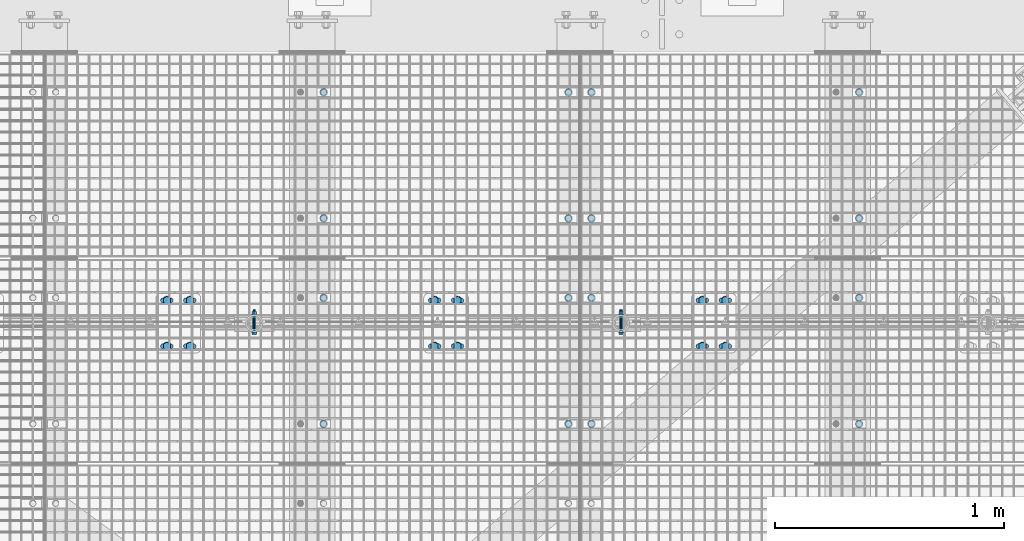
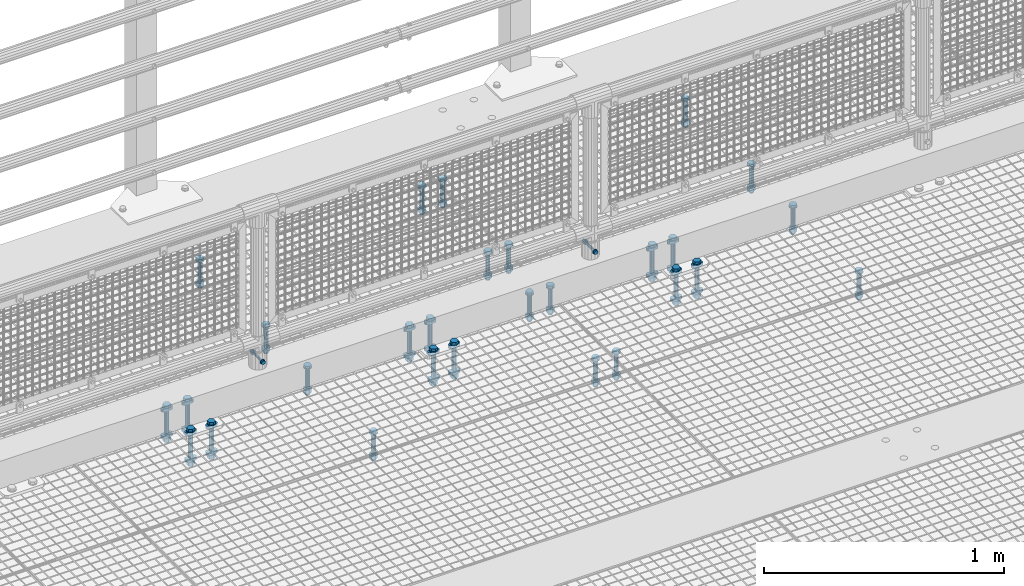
# One storey, part 38 of 1530: 13 mechanical fasteners.
"""IFC2X3 building model written with IfcOpenShell, lengths in millimetres."""

from ifc_helpers import new_model, si_unit, frame, origin_with_axes, place, context, subcontext, project, spatial, faceted_brep, source, transform, mapped, material, type_object, element, save


model = new_model("IFC2X3")

# Units and contexts
model_context = context("Model", 3, precision=1e-05, world=origin_with_axes())
body_context = subcontext(model_context, "Body", "Model", "MODEL_VIEW")
ifc_project = project(units=[si_unit("LENGTHUNIT", "METRE", prefix="MILLI"), si_unit("AREAUNIT", "SQUARE_METRE"), si_unit("VOLUMEUNIT", "CUBIC_METRE"), si_unit("MASSUNIT", "GRAM", prefix="KILO"), si_unit("TIMEUNIT", "SECOND"), si_unit("PLANEANGLEUNIT", "RADIAN"), si_unit("SOLIDANGLEUNIT", "STERADIAN"), si_unit("THERMODYNAMICTEMPERATUREUNIT", "DEGREE_CELSIUS"), si_unit("LUMINOUSINTENSITYUNIT", "LUMEN")], contexts=[model_context])

# Site, building, storey
site_placement = place(None, origin_with_axes())
site = spatial("IfcSite", under=ifc_project, at=site_placement, Name="Brattvåg", CompositionType="ELEMENT")
building_placement = place(site_placement, origin_with_axes())
building = spatial("IfcBuilding", under=site, at=building_placement, Name="Undefined", CompositionType="ELEMENT")
storey_placement = place(building_placement, origin_with_axes())
storey = spatial("IfcBuildingStorey", under=building, at=storey_placement, Name="Undefined", CompositionType="ELEMENT", Elevation=0.0)

# Mechanical fasteners
ifc_material = material(Name="8")
mechanical_fastener_type = type_object("IfcMechanicalFastenerType", Name="Bolt assembly")
shared_shape_1 = source(origin_with_axes(), body_context, "Body", "Brep", [
    faceted_brep([(17.3205080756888, -10.5, 0.0), (8.66025403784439, -10.5, 15.0), (-8.66025403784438, -10.5, 15.0), (-17.3205080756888, -10.5, 2.12115047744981e-15), (-8.66025403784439, -10.5, -15.0), (8.66025403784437, -10.5, -15.0), (8.66025403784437, 2.0, -15.0), (-8.66025403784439, 2.0, -15.0), (-17.3205080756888, 2.0, 2.12115047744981e-15), (-8.66025403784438, 2.0, 15.0), (8.66025403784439, 2.0, 15.0), (17.3205080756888, 2.0, 0.0), (10.0, 2.0, 0.0), (8.66025403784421, 2.0, 5.0000000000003), (4.9999999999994, 2.0, 8.66025403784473), (-1.03633598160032e-12, 2.0, 10.0), (-5.00000000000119, 2.0, 8.6602540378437), (-8.66025403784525, 2.0, 4.99999999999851), (-10.0, 2.0, -2.07267196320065e-12), (-8.66025403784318, 2.0, -5.00000000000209), (-4.99999999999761, 2.0, -8.66025403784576), (3.09790571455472e-12, 2.0, -10.0), (5.00000000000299, 2.0, -8.66025403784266), (8.66025403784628, 2.0, -4.99999999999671), (8.66025403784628, 142.0, -4.99999999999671), (5.00000000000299, 142.0, -8.66025403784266), (3.09790571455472e-12, 142.0, -10.0), (-4.99999999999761, 142.0, -8.66025403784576), (-8.66025403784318, 142.0, -5.00000000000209), (-10.0, 142.0, -2.07267196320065e-12), (-8.66025403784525, 142.0, 4.99999999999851), (-5.00000000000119, 142.0, 8.6602540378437), (-1.03633598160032e-12, 142.0, 10.0), (4.9999999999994, 142.0, 8.66025403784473), (8.66025403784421, 142.0, 5.0000000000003), (10.0, 142.0, 0.0), (18.5, 2.0, 0.0), (16.0214699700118, 2.0, 9.25000000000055), (9.2499999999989, 2.0, 16.0214699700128), (-1.9172215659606e-12, 2.0, 18.5), (-9.25000000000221, 2.0, 16.0214699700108), (-16.0214699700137, 2.0, 9.24999999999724), (-18.5, 2.0, -3.83444313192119e-12), (-16.0214699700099, 2.0, -9.25000000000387), (-9.24999999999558, 2.0, -16.0214699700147), (5.73112557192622e-12, 2.0, -18.5), (9.25000000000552, 2.0, -16.0214699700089), (16.0214699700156, 2.0, -9.24999999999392), (16.0214699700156, 5.0, -9.24999999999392), (9.25000000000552, 5.0, -16.0214699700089), (5.73112557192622e-12, 5.0, -18.5), (-9.24999999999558, 5.0, -16.0214699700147), (-16.0214699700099, 5.0, -9.25000000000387), (-18.5, 5.0, -3.83444313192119e-12), (-16.0214699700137, 5.0, 9.24999999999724), (-9.25000000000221, 5.0, 16.0214699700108), (-1.9172215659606e-12, 5.0, 18.5), (9.2499999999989, 5.0, 16.0214699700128), (16.0214699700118, 5.0, 9.25000000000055), (18.5, 5.0, 0.0), (18.5, 109.998931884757, 0.0), (16.0214699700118, 109.998931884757, 9.25000000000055), (9.2499999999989, 109.998931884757, 16.0214699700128), (-1.9172215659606e-12, 109.998931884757, 18.5), (-9.25000000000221, 109.998931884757, 16.0214699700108), (-16.0214699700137, 109.998931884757, 9.24999999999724), (-18.5, 109.998931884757, -3.83444313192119e-12), (-16.0214699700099, 109.998931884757, -9.25000000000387), (-9.24999999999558, 109.998931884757, -16.0214699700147), (5.73112557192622e-12, 109.998931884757, -18.5), (9.25000000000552, 109.998931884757, -16.0214699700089), (16.0214699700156, 109.998931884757, -9.24999999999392), (16.0214699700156, 112.998931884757, -9.24999999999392), (9.25000000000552, 112.998931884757, -16.0214699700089), (5.73112557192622e-12, 112.998931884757, -18.5), (-9.24999999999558, 112.998931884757, -16.0214699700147), (-16.0214699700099, 112.998931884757, -9.25000000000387), (-18.5, 112.998931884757, -3.83444313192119e-12), (-16.0214699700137, 112.998931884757, 9.24999999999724), (-9.25000000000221, 112.998931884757, 16.0214699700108), (-1.9172215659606e-12, 112.998931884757, 18.5), (9.2499999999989, 112.998931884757, 16.0214699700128), (16.0214699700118, 112.998931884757, 9.25000000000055), (18.5, 112.998931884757, 0.0), (17.3205080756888, 112.998931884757, 0.0), (8.66025403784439, 112.998931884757, 15.0), (-8.66025403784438, 112.998931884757, 15.0), (-17.3205080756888, 112.998931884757, 2.12115047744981e-15), (-8.66025403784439, 112.998931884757, -15.0), (8.66025403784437, 112.998931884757, -15.0), (8.66025403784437, 130.998931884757, -15.0), (-8.66025403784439, 130.998931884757, -15.0), (-17.3205080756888, 130.998931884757, 2.12115047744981e-15), (-8.66025403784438, 130.998931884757, 15.0), (8.66025403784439, 130.998931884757, 15.0), (17.3205080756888, 130.998931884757, 0.0)], [[[0, 1, 2, 3, 4, 5]], [[6, 7, 8, 9, 10, 11]], [[0, 11, 10, 1]], [[1, 10, 9, 2]], [[2, 9, 8, 3]], [[3, 8, 7, 4]], [[4, 7, 6, 5]], [[5, 6, 11, 0]], [[12, 13, 14, 15, 16, 17, 18, 19, 20, 21, 22, 23]], [[24, 25, 26, 27, 28, 29, 30, 31, 32, 33, 34, 35]], [[12, 35, 34, 13]], [[13, 34, 33, 14]], [[14, 33, 32, 15]], [[15, 32, 31, 16]], [[16, 31, 30, 17]], [[17, 30, 29, 18]], [[18, 29, 28, 19]], [[19, 28, 27, 20]], [[20, 27, 26, 21]], [[21, 26, 25, 22]], [[22, 25, 24, 23]], [[23, 24, 35, 12]], [[36, 37, 38, 39, 40, 41, 42, 43, 44, 45, 46, 47]], [[48, 49, 50, 51, 52, 53, 54, 55, 56, 57, 58, 59]], [[36, 59, 58, 37]], [[37, 58, 57, 38]], [[38, 57, 56, 39]], [[39, 56, 55, 40]], [[40, 55, 54, 41]], [[41, 54, 53, 42]], [[42, 53, 52, 43]], [[43, 52, 51, 44]], [[44, 51, 50, 45]], [[45, 50, 49, 46]], [[46, 49, 48, 47]], [[47, 48, 59, 36]], [[60, 61, 62, 63, 64, 65, 66, 67, 68, 69, 70, 71]], [[72, 73, 74, 75, 76, 77, 78, 79, 80, 81, 82, 83]], [[60, 83, 82, 61]], [[61, 82, 81, 62]], [[62, 81, 80, 63]], [[63, 80, 79, 64]], [[64, 79, 78, 65]], [[65, 78, 77, 66]], [[66, 77, 76, 67]], [[67, 76, 75, 68]], [[68, 75, 74, 69]], [[69, 74, 73, 70]], [[70, 73, 72, 71]], [[71, 72, 83, 60]], [[84, 85, 86, 87, 88, 89]], [[90, 91, 92, 93, 94, 95]], [[84, 95, 94, 85]], [[85, 94, 93, 86]], [[86, 93, 92, 87]], [[87, 92, 91, 88]], [[88, 91, 90, 89]], [[89, 90, 95, 84]]]),
])
for number, where, z_axis, x_axis, name in (
    (1, (5292.00477935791, 8121.91931152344, -25.0), (-1.0, 1.99999855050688e-09, 0.0), (0.0, 1.0, 0.0), "Bolt assembly"),
    (2, (5292.00477935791, 7224.91931152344, -25.0), (-1.0, 1.99999855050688e-09, 0.0), (0.0, 1.0, 0.0), "Bolt assembly"),
    (3, (6460.01192543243, 8121.99, -25.0), (-1.0, 1.99999855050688e-09, 0.0), (0.0, 1.0, 0.0), "Bolt assembly"),
    (4, (5192.01487731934, 8121.9204864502, -25.0), (-1.0, 1.99999855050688e-09, 0.0), (0.0, 1.0, 0.0), "Bolt assembly"),
    (5, (4124.01192543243, 8121.99, -25.0), (-1.0, 1.99999855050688e-09, 0.0), (0.0, 1.0, 0.0), "Bolt assembly"),
    (6, (6460.01192543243, 7224.99, -25.0), (-1.0, 1.99999855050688e-09, 0.0), (0.0, 1.0, 0.0), "Bolt assembly"),
    (7, (5192.01487731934, 7224.9204864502, -25.0), (-1.0, 1.99999855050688e-09, 0.0), (0.0, 1.0, 0.0), "Bolt assembly"),
    (8, (4124.01192543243, 7224.99, -25.0), (-1.0, 1.99999855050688e-09, 0.0), (0.0, 1.0, 0.0), "Bolt assembly"),
):
    element("IfcMechanicalFastener", number, at=place(storey_placement, frame(where, z_axis=z_axis, x_axis=x_axis)), inside=storey, type_object=mechanical_fastener_type, material=ifc_material, Name=name, NominalDiameter=20.0, NominalLength=140.0, context=body_context, shape_type="MappedRepresentation", body=[
        mapped(shared_shape_1, transform((0.0, 0.0, 0.0))),
        mapped(shared_shape_1, transform((549.999999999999, 0.0, 0.0))),
    ])
shared_shape_2 = source(origin_with_axes(), body_context, "Body", "Brep", [
    faceted_brep([(17.3205080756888, -15.5000000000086, 0.0), (8.66025403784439, -15.5000000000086, 15.0), (-8.66025403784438, -15.5000000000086, 15.0), (-17.3205080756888, -15.5000000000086, 2.12115047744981e-15), (-8.66025403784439, -15.5000000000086, -15.0), (8.66025403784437, -15.5000000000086, -15.0), (8.66025403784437, -3.00000000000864, -15.0), (-8.66025403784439, -3.00000000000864, -15.0), (-17.3205080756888, -3.00000000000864, 2.12115047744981e-15), (-8.66025403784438, -3.00000000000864, 15.0), (8.66025403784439, -3.00000000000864, 15.0), (17.3205080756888, -3.00000000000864, 0.0), (10.0, -3.00000000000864, 0.0), (8.66025403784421, -3.00000000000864, 5.0000000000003), (4.9999999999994, -3.00000000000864, 8.66025403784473), (-1.03633598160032e-12, -3.00000000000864, 10.0), (-5.00000000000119, -3.00000000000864, 8.6602540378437), (-8.66025403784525, -3.00000000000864, 4.99999999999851), (-10.0, -3.00000000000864, -2.07267196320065e-12), (-8.66025403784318, -3.00000000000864, -5.00000000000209), (-4.99999999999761, -3.00000000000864, -8.66025403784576), (3.09790571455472e-12, -3.00000000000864, -10.0), (5.00000000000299, -3.00000000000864, -8.66025403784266), (8.66025403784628, -3.00000000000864, -4.99999999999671), (8.66025403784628, 176.999999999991, -4.99999999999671), (5.00000000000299, 176.999999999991, -8.66025403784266), (3.09790571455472e-12, 176.999999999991, -10.0), (-4.99999999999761, 176.999999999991, -8.66025403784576), (-8.66025403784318, 176.999999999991, -5.00000000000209), (-10.0, 176.999999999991, -2.07267196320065e-12), (-8.66025403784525, 176.999999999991, 4.99999999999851), (-5.00000000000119, 176.999999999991, 8.6602540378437), (-1.03633598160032e-12, 176.999999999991, 10.0), (4.9999999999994, 176.999999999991, 8.66025403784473), (8.66025403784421, 176.999999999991, 5.0000000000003), (10.0, 176.999999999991, 0.0), (18.5, -3.00000000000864, 0.0), (16.0214699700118, -3.00000000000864, 9.25000000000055), (9.2499999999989, -3.00000000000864, 16.0214699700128), (-1.9172215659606e-12, -3.00000000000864, 18.5), (-9.25000000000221, -3.00000000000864, 16.0214699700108), (-16.0214699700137, -3.00000000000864, 9.24999999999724), (-18.5, -3.00000000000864, -3.83444313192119e-12), (-16.0214699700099, -3.00000000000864, -9.25000000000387), (-9.24999999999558, -3.00000000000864, -16.0214699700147), (5.73112557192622e-12, -3.00000000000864, -18.5), (9.25000000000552, -3.00000000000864, -16.0214699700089), (16.0214699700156, -3.00000000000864, -9.24999999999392), (16.0214699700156, -8.64019966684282e-12, -9.24999999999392), (9.25000000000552, -8.64019966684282e-12, -16.0214699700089), (5.73112557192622e-12, -8.64019966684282e-12, -18.5), (-9.24999999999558, -8.64019966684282e-12, -16.0214699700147), (-16.0214699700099, -8.64019966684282e-12, -9.25000000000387), (-18.5, -8.64019966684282e-12, -3.83444313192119e-12), (-16.0214699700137, -8.64019966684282e-12, 9.24999999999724), (-9.25000000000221, -8.64019966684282e-12, 16.0214699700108), (-1.9172215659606e-12, -8.64019966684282e-12, 18.5), (9.2499999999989, -8.64019966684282e-12, 16.0214699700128), (16.0214699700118, -8.64019966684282e-12, 9.25000000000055), (18.5, -8.64019966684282e-12, 0.0), (18.5, 149.999999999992, 0.0), (16.0214699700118, 149.999999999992, 9.25000000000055), (9.2499999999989, 149.999999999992, 16.0214699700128), (-1.9172215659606e-12, 149.999999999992, 18.5), (-9.25000000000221, 149.999999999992, 16.0214699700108), (-16.0214699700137, 149.999999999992, 9.24999999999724), (-18.5, 149.999999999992, -3.83444313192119e-12), (-16.0214699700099, 149.999999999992, -9.25000000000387), (-9.24999999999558, 149.999999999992, -16.0214699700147), (5.73112557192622e-12, 149.999999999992, -18.5), (9.25000000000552, 149.999999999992, -16.0214699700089), (16.0214699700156, 149.999999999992, -9.24999999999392), (16.0214699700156, 152.999999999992, -9.24999999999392), (9.25000000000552, 152.999999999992, -16.0214699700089), (5.73112557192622e-12, 152.999999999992, -18.5), (-9.24999999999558, 152.999999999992, -16.0214699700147), (-16.0214699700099, 152.999999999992, -9.25000000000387), (-18.5, 152.999999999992, -3.83444313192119e-12), (-16.0214699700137, 152.999999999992, 9.24999999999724), (-9.25000000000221, 152.999999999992, 16.0214699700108), (-1.9172215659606e-12, 152.999999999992, 18.5), (9.2499999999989, 152.999999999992, 16.0214699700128), (16.0214699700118, 152.999999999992, 9.25000000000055), (18.5, 152.999999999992, 0.0), (17.3205080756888, 152.999999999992, 0.0), (8.66025403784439, 152.999999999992, 15.0), (-8.66025403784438, 152.999999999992, 15.0), (-17.3205080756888, 152.999999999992, 2.12115047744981e-15), (-8.66025403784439, 152.999999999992, -15.0), (8.66025403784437, 152.999999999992, -15.0), (8.66025403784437, 170.999999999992, -15.0), (-8.66025403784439, 170.999999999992, -15.0), (-17.3205080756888, 170.999999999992, 2.12115047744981e-15), (-8.66025403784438, 170.999999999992, 15.0), (8.66025403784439, 170.999999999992, 15.0), (17.3205080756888, 170.999999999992, 0.0)], [[[0, 1, 2, 3, 4, 5]], [[6, 7, 8, 9, 10, 11]], [[0, 11, 10, 1]], [[1, 10, 9, 2]], [[2, 9, 8, 3]], [[3, 8, 7, 4]], [[4, 7, 6, 5]], [[5, 6, 11, 0]], [[12, 13, 14, 15, 16, 17, 18, 19, 20, 21, 22, 23]], [[24, 25, 26, 27, 28, 29, 30, 31, 32, 33, 34, 35]], [[12, 35, 34, 13]], [[13, 34, 33, 14]], [[14, 33, 32, 15]], [[15, 32, 31, 16]], [[16, 31, 30, 17]], [[17, 30, 29, 18]], [[18, 29, 28, 19]], [[19, 28, 27, 20]], [[20, 27, 26, 21]], [[21, 26, 25, 22]], [[22, 25, 24, 23]], [[23, 24, 35, 12]], [[36, 37, 38, 39, 40, 41, 42, 43, 44, 45, 46, 47]], [[48, 49, 50, 51, 52, 53, 54, 55, 56, 57, 58, 59]], [[36, 59, 58, 37]], [[37, 58, 57, 38]], [[38, 57, 56, 39]], [[39, 56, 55, 40]], [[40, 55, 54, 41]], [[41, 54, 53, 42]], [[42, 53, 52, 43]], [[43, 52, 51, 44]], [[44, 51, 50, 45]], [[45, 50, 49, 46]], [[46, 49, 48, 47]], [[47, 48, 59, 36]], [[60, 61, 62, 63, 64, 65, 66, 67, 68, 69, 70, 71]], [[72, 73, 74, 75, 76, 77, 78, 79, 80, 81, 82, 83]], [[60, 83, 82, 61]], [[61, 82, 81, 62]], [[62, 81, 80, 63]], [[63, 80, 79, 64]], [[64, 79, 78, 65]], [[65, 78, 77, 66]], [[66, 77, 76, 67]], [[67, 76, 75, 68]], [[68, 75, 74, 69]], [[69, 74, 73, 70]], [[70, 73, 72, 71]], [[71, 72, 83, 60]], [[84, 85, 86, 87, 88, 89]], [[90, 91, 92, 93, 94, 95]], [[84, 95, 94, 85]], [[85, 94, 93, 86]], [[86, 93, 92, 87]], [[87, 92, 91, 88]], [[88, 91, 90, 89]], [[89, 90, 95, 84]]]),
    faceted_brep([(11.0, 0.0999999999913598, 16.5), (10.162674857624, 0.0999999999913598, 20.7095177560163), (7.77817459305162, 0.0999999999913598, 24.2781745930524), (-1.13996957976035e-12, 0.0999999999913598, 27.5), (-5.50000000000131, 0.0999999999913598, 26.0262794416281), (-9.52627944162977, 0.0999999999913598, 21.9999999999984), (-11.0, 0.0999999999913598, 16.4999999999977), (-11.0, 0.0999999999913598, -16.5000000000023), (-9.5262794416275, 0.0999999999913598, -22.0000000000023), (-5.49999999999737, 0.0999999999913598, -26.0262794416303), (3.40769628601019e-12, 0.0999999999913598, -27.5), (5.50000000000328, 0.0999999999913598, -26.0262794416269), (9.52627944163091, 0.0999999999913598, -21.9999999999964), (11.0, 0.0999999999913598, -16.4999999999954), (11.0, 15.0999999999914, -16.4999999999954), (9.52627944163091, 15.0999999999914, -21.9999999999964), (5.50000000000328, 15.0999999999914, -26.0262794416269), (3.40769628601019e-12, 15.0999999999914, -27.5), (-5.49999999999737, 15.0999999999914, -26.0262794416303), (-9.5262794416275, 15.0999999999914, -22.0000000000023), (-11.0, 15.0999999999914, -16.5000000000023), (-11.0, 15.0999999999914, 16.4999999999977), (-9.52627944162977, 15.0999999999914, 21.9999999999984), (-5.50000000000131, 15.0999999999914, 26.0262794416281), (-1.13996957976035e-12, 15.0999999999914, 27.5), (4.2095177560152, 15.0999999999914, 26.6626748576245), (7.77817459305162, 15.0999999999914, 24.2781745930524), (10.162674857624, 15.0999999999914, 20.7095177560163), (11.0, 15.0999999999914, 16.5), (4.2095177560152, 0.0999999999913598, 26.6626748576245), (11.0, 134.899999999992, 16.5), (10.162674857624, 134.899999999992, 20.7095177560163), (7.77817459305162, 134.899999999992, 24.2781745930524), (-1.13996957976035e-12, 134.899999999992, 27.5), (-5.50000000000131, 134.899999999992, 26.0262794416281), (-9.52627944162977, 134.899999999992, 21.9999999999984), (-11.0, 134.899999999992, 16.4999999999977), (-11.0, 134.899999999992, -16.5000000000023), (-9.5262794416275, 134.899999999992, -22.0000000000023), (-5.49999999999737, 134.899999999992, -26.0262794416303), (3.40769628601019e-12, 134.899999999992, -27.5), (5.50000000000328, 134.899999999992, -26.0262794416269), (9.52627944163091, 134.899999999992, -21.9999999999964), (11.0, 134.899999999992, -16.4999999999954), (11.0, 149.999999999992, -16.4999999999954), (9.52627944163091, 149.999999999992, -21.9999999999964), (5.50000000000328, 149.999999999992, -26.0262794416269), (3.40769628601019e-12, 149.999999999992, -27.5), (-5.49999999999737, 149.999999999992, -26.0262794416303), (-9.5262794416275, 149.999999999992, -22.0000000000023), (-11.0, 149.999999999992, -16.5000000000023), (-11.0, 149.999999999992, 16.4999999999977), (-9.52627944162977, 149.999999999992, 21.9999999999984), (-5.50000000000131, 149.999999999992, 26.0262794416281), (-1.13996957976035e-12, 149.999999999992, 27.5), (4.2095177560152, 149.999999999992, 26.6626748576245), (7.77817459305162, 149.999999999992, 24.2781745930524), (10.162674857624, 149.999999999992, 20.7095177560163), (11.0, 149.999999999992, 16.5), (4.2095177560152, 134.899999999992, 26.6626748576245)], [[[0, 1, 2, 3, 4, 5, 6, 7, 8, 9, 10, 11, 12, 13]], [[14, 15, 16, 17, 18, 19, 20, 21, 22, 23, 24, 25, 26, 27, 28]], [[0, 28, 27, 1]], [[1, 27, 26, 2]], [[2, 26, 25, 29]], [[29, 25, 24, 3]], [[3, 24, 23, 4]], [[4, 23, 22, 5]], [[5, 22, 21, 6]], [[6, 21, 20, 7]], [[7, 20, 19, 8]], [[8, 19, 18, 9]], [[9, 18, 17, 10]], [[10, 17, 16, 11]], [[11, 16, 15, 12]], [[12, 15, 14, 13]], [[13, 14, 28, 0]], [[30, 31, 32, 33, 34, 35, 36, 37, 38, 39, 40, 41, 42, 43]], [[44, 45, 46, 47, 48, 49, 50, 51, 52, 53, 54, 55, 56, 57, 58]], [[30, 58, 57, 31]], [[31, 57, 56, 32]], [[32, 56, 55, 59]], [[59, 55, 54, 33]], [[33, 54, 53, 34]], [[34, 53, 52, 35]], [[35, 52, 51, 36]], [[36, 51, 50, 37]], [[37, 50, 49, 38]], [[38, 49, 48, 39]], [[39, 48, 47, 40]], [[40, 47, 46, 41]], [[41, 46, 45, 42]], [[42, 45, 44, 43]], [[43, 44, 58, 30]]]),
])
for number, where, z_axis, x_axis, name in (
    (9, (3489.99967956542, 7564.4994392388, 15.0000839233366), (-1.0, 1.99999855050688e-09, 0.0), (0.0, 1.0, 0.0), "Bolt assembly"),
    (10, (4657.99967956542, 7564.4994392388, 15.0000839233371), (-1.0, 1.99999855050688e-09, 0.0), (0.0, 1.0, 0.0), "Bolt assembly"),
    (11, (5825.99967956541, 7564.4994392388, 15.0000839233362), (-1.0, 1.99999855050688e-09, 0.0), (0.0, 1.0, 0.0), "Bolt assembly"),
):
    element("IfcMechanicalFastener", number, at=place(storey_placement, frame(where, z_axis=z_axis, x_axis=x_axis)), inside=storey, type_object=mechanical_fastener_type, material=ifc_material, Name=name, NominalDiameter=20.0, NominalLength=180.0, context=body_context, shape_type="MappedRepresentation", body=[
        mapped(shared_shape_2, transform((0.0, 0.0, -50.0))),
        mapped(shared_shape_2, transform((200.0, 0.0, -50.0))),
        mapped(shared_shape_2, transform((0.0, 0.0, 50.0))),
        mapped(shared_shape_2, transform((200.0, 0.0, 50.0))),
    ])
shared_shape_3 = source(origin_with_axes(), body_context, "Body", "Brep", [
    faceted_brep([(10.3923048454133, -9.99524588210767, 0.0), (5.19615242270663, -9.99524588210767, 9.0), (-5.19615242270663, -9.99524588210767, 9.0), (-10.3923048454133, -9.99524588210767, 1.27269028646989e-15), (-5.19615242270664, -9.99524588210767, -9.0), (5.19615242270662, -9.99524588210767, -9.0), (5.19615242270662, -2.49524588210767, -9.0), (-5.19615242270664, -2.49524588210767, -9.0), (-10.3923048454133, -2.49524588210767, 1.27269028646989e-15), (-5.19615242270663, -2.49524588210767, 9.0), (5.19615242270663, -2.49524588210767, 9.0), (10.3923048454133, -2.49524588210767, 0.0), (6.0, -2.49524588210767, 0.0), (5.19615242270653, -2.49524588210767, 3.00000000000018), (2.99999999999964, -2.49524588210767, 5.19615242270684), (-6.21801588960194e-13, -2.49524588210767, 6.0), (-3.00000000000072, -2.49524588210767, 5.19615242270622), (-5.19615242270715, -2.49524588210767, 2.9999999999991), (-6.0, -2.49524588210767, -1.24360317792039e-12), (-5.19615242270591, -2.49524588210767, -3.00000000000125), (-2.99999999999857, -2.49524588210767, -5.19615242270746), (1.85874342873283e-12, -2.49524588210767, -6.0), (3.00000000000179, -2.49524588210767, -5.1961524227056), (5.19615242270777, -2.49524588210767, -2.99999999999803), (5.19615242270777, 97.5047541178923, -2.99999999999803), (3.00000000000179, 97.5047541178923, -5.1961524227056), (1.85874342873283e-12, 97.5047541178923, -6.0), (-2.99999999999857, 97.5047541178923, -5.19615242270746), (-5.19615242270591, 97.5047541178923, -3.00000000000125), (-6.0, 97.5047541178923, -1.24360317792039e-12), (-5.19615242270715, 97.5047541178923, 2.9999999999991), (-3.00000000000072, 97.5047541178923, 5.19615242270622), (-6.21801588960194e-13, 97.5047541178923, 6.0), (2.99999999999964, 97.5047541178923, 5.19615242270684), (5.19615242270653, 97.5047541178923, 3.00000000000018), (6.0, 97.5047541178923, 0.0), (12.0, -2.49524588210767, 0.0), (10.3923048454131, -2.49524588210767, 6.00000000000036), (5.99999999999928, -2.49524588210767, 10.3923048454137), (-1.24360317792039e-12, -2.49524588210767, 12.0), (-6.00000000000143, -2.49524588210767, 10.3923048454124), (-10.3923048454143, -2.49524588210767, 5.99999999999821), (-12.0, -2.49524588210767, -2.48720635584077e-12), (-10.3923048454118, -2.49524588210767, -6.00000000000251), (-5.99999999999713, -2.49524588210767, -10.3923048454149), (3.71748685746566e-12, -2.49524588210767, -12.0), (6.00000000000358, -2.49524588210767, -10.3923048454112), (10.3923048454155, -2.49524588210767, -5.99999999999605), (10.3923048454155, 0.00475411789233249, -5.99999999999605), (6.00000000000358, 0.00475411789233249, -10.3923048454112), (3.71748685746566e-12, 0.00475411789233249, -12.0), (-5.99999999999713, 0.00475411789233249, -10.3923048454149), (-10.3923048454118, 0.00475411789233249, -6.00000000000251), (-12.0, 0.00475411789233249, -2.48720635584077e-12), (-10.3923048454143, 0.00475411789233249, 5.99999999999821), (-6.00000000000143, 0.00475411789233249, 10.3923048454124), (-1.24360317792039e-12, 0.00475411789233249, 12.0), (5.99999999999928, 0.00475411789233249, 10.3923048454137), (10.3923048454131, 0.00475411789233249, 6.00000000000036), (12.0, 0.00475411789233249, 0.0), (12.0, 76.1029826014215, 0.0), (10.3923048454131, 76.1029826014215, 6.00000000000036), (5.99999999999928, 76.1029826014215, 10.3923048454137), (-1.24360317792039e-12, 76.1029826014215, 12.0), (-6.00000000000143, 76.1029826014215, 10.3923048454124), (-10.3923048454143, 76.1029826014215, 5.99999999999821), (-12.0, 76.1029826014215, -2.48720635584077e-12), (-10.3923048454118, 76.1029826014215, -6.00000000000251), (-5.99999999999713, 76.1029826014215, -10.3923048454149), (3.71748685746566e-12, 76.1029826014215, -12.0), (6.00000000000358, 76.1029826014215, -10.3923048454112), (10.3923048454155, 76.1029826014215, -5.99999999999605), (10.3923048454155, 78.6029826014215, -5.99999999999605), (6.00000000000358, 78.6029826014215, -10.3923048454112), (3.71748685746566e-12, 78.6029826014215, -12.0), (-5.99999999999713, 78.6029826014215, -10.3923048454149), (-10.3923048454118, 78.6029826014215, -6.00000000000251), (-12.0, 78.6029826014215, -2.48720635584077e-12), (-10.3923048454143, 78.6029826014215, 5.99999999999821), (-6.00000000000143, 78.6029826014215, 10.3923048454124), (-1.24360317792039e-12, 78.6029826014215, 12.0), (5.99999999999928, 78.6029826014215, 10.3923048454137), (10.3923048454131, 78.6029826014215, 6.00000000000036), (12.0, 78.6029826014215, 0.0), (10.3923048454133, 78.6029826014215, 0.0), (5.19615242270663, 78.6029826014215, 9.0), (-5.19615242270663, 78.6029826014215, 9.0), (-10.3923048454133, 78.6029826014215, 1.27269028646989e-15), (-5.19615242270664, 78.6029826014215, -9.0), (5.19615242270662, 78.6029826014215, -9.0), (5.19615242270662, 89.4029827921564, -9.0), (-5.19615242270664, 89.4029827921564, -9.0), (-10.3923048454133, 89.4029827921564, 1.27269028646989e-15), (-5.19615242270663, 89.4029827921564, 9.0), (5.19615242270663, 89.4029827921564, 9.0), (10.3923048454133, 89.4029827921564, 0.0)], [[[0, 1, 2, 3, 4, 5]], [[6, 7, 8, 9, 10, 11]], [[0, 11, 10, 1]], [[1, 10, 9, 2]], [[2, 9, 8, 3]], [[3, 8, 7, 4]], [[4, 7, 6, 5]], [[5, 6, 11, 0]], [[12, 13, 14, 15, 16, 17, 18, 19, 20, 21, 22, 23]], [[24, 25, 26, 27, 28, 29, 30, 31, 32, 33, 34, 35]], [[12, 35, 34, 13]], [[13, 34, 33, 14]], [[14, 33, 32, 15]], [[15, 32, 31, 16]], [[16, 31, 30, 17]], [[17, 30, 29, 18]], [[18, 29, 28, 19]], [[19, 28, 27, 20]], [[20, 27, 26, 21]], [[21, 26, 25, 22]], [[22, 25, 24, 23]], [[23, 24, 35, 12]], [[36, 37, 38, 39, 40, 41, 42, 43, 44, 45, 46, 47]], [[48, 49, 50, 51, 52, 53, 54, 55, 56, 57, 58, 59]], [[36, 59, 58, 37]], [[37, 58, 57, 38]], [[38, 57, 56, 39]], [[39, 56, 55, 40]], [[40, 55, 54, 41]], [[41, 54, 53, 42]], [[42, 53, 52, 43]], [[43, 52, 51, 44]], [[44, 51, 50, 45]], [[45, 50, 49, 46]], [[46, 49, 48, 47]], [[47, 48, 59, 36]], [[60, 61, 62, 63, 64, 65, 66, 67, 68, 69, 70, 71]], [[72, 73, 74, 75, 76, 77, 78, 79, 80, 81, 82, 83]], [[60, 83, 82, 61]], [[61, 82, 81, 62]], [[62, 81, 80, 63]], [[63, 80, 79, 64]], [[64, 79, 78, 65]], [[65, 78, 77, 66]], [[66, 77, 76, 67]], [[67, 76, 75, 68]], [[68, 75, 74, 69]], [[69, 74, 73, 70]], [[70, 73, 72, 71]], [[71, 72, 83, 60]], [[84, 85, 86, 87, 88, 89]], [[90, 91, 92, 93, 94, 95]], [[84, 95, 94, 85]], [[85, 94, 93, 86]], [[86, 93, 92, 87]], [[87, 92, 91, 88]], [[88, 91, 90, 89]], [[89, 90, 95, 84]]]),
    faceted_brep([(6.5, 0.104754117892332, 0.0), (5.62916512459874, 0.104754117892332, 3.25000000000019), (3.24999999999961, 0.104754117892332, 5.62916512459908), (-6.7361838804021e-13, 0.104754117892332, 6.5), (-3.25000000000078, 0.104754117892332, 5.6291651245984), (-5.62916512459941, 0.104754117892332, 3.24999999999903), (-6.5, 0.104754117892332, -1.34723677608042e-12), (-5.62916512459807, 0.104754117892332, -3.25000000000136), (-3.24999999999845, 0.104754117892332, -5.62916512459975), (2.01363871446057e-12, 0.104754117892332, -6.5), (3.25000000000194, 0.104754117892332, -5.62916512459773), (5.62916512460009, 0.104754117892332, -3.24999999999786), (5.62916512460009, 76.2029826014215, -3.24999999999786), (3.25000000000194, 76.2029826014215, -5.62916512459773), (2.01363871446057e-12, 76.2029826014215, -6.5), (-3.24999999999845, 76.2029826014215, -5.62916512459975), (-5.62916512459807, 76.2029826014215, -3.25000000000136), (-6.5, 76.2029826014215, -1.34723677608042e-12), (-5.62916512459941, 76.2029826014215, 3.24999999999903), (-3.25000000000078, 76.2029826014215, 5.6291651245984), (-6.7361838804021e-13, 76.2029826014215, 6.5), (3.24999999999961, 76.2029826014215, 5.62916512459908), (5.62916512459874, 76.2029826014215, 3.25000000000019), (6.5, 76.2029826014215, 0.0), (6.5, 7.80509808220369, 0.0), (5.62916512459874, 7.80509808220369, 3.25000000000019), (3.24999999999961, 7.80509808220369, 5.62916512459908), (-6.7361838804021e-13, 7.80509808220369, 6.5), (-3.25000000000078, 7.80509808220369, 5.6291651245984), (-5.62916512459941, 7.80509808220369, 3.24999999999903), (-6.5, 7.80509808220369, -1.34723677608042e-12), (-5.62916512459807, 7.80509808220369, -3.25000000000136), (-3.24999999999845, 7.80509808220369, -5.62916512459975), (2.01363871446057e-12, 7.80509808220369, -6.5), (3.25000000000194, 7.80509808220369, -5.62916512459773), (5.62916512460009, 7.80509808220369, -3.24999999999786), (5.62916512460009, 68.2033458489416, -3.24999999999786), (3.25000000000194, 68.2033458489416, -5.62916512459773), (2.01363871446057e-12, 68.2033458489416, -6.5), (-3.24999999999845, 68.2033458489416, -5.62916512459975), (-5.62916512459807, 68.2033458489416, -3.25000000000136), (-6.5, 68.2033458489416, -1.34723677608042e-12), (-5.62916512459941, 68.2033458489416, 3.24999999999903), (-3.25000000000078, 68.2033458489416, 5.6291651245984), (-6.7361838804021e-13, 68.2033458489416, 6.5), (3.24999999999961, 68.2033458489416, 5.62916512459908), (5.62916512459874, 68.2033458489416, 3.25000000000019), (6.5, 68.2033458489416, 0.0)], [[[0, 1, 2, 3, 4, 5, 6, 7, 8, 9, 10, 11]], [[12, 13, 14, 15, 16, 17, 18, 19, 20, 21, 22, 23]], [[0, 23, 22, 1]], [[1, 22, 21, 2]], [[2, 21, 20, 3]], [[3, 20, 19, 4]], [[4, 19, 18, 5]], [[5, 18, 17, 6]], [[6, 17, 16, 7]], [[7, 16, 15, 8]], [[8, 15, 14, 9]], [[9, 14, 13, 10]], [[10, 13, 12, 11]], [[11, 12, 23, 0]], [[24, 25, 26, 27, 28, 29, 30, 31, 32, 33, 34, 35]], [[36, 37, 38, 39, 40, 41, 42, 43, 44, 45, 46, 47]], [[24, 47, 46, 25]], [[25, 46, 45, 26]], [[26, 45, 44, 27]], [[27, 44, 43, 28]], [[28, 43, 42, 29]], [[29, 42, 41, 30]], [[30, 41, 40, 31]], [[31, 40, 39, 32]], [[32, 39, 38, 33]], [[33, 38, 37, 34]], [[34, 37, 36, 35]], [[35, 36, 47, 24]]]),
])
for number, where, z_axis, x_axis, name in (
    (12, (3820.99510448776, 7626.4447316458, 194.999988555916), (1.0, 0.0, 0.0), (0.0, 0.0, -1.0), "Bolt assembly"),
    (13, (5420.99510448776, 7626.4447316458, 194.999988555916), (1.0, 0.0, 0.0), (0.0, 0.0, -1.0), "Bolt assembly"),
):
    element("IfcMechanicalFastener", number, at=place(storey_placement, frame(where, z_axis=z_axis, x_axis=x_axis)), inside=storey, type_object=mechanical_fastener_type, material=ifc_material, Name=name, NominalDiameter=12.0, NominalLength=100.0, context=body_context, shape_type="MappedRepresentation", body=[
        mapped(shared_shape_3, transform((0.0, 0.0, 0.0))),
    ])

save(model, "model.ifc")
